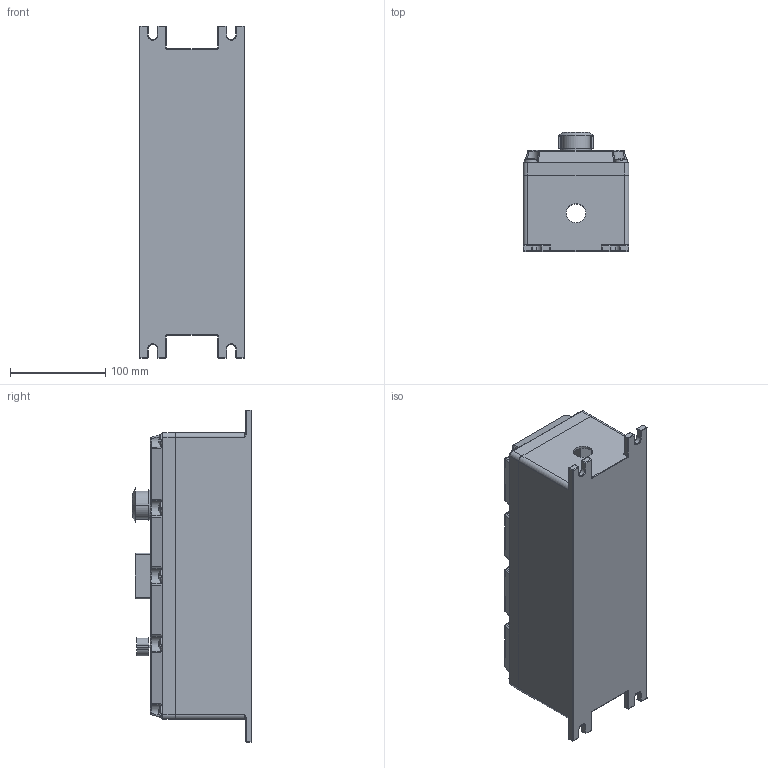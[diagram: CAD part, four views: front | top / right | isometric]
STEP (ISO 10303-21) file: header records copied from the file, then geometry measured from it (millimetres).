
FILE_DESCRIPTION (( 'STEP AP214' ), '1' );
FILE_NAME ('EPCS-PBS-2XPB-1XESTP-PTM.2K-M1.STEP', '2021-12-08T21:00:06', ( '' ), ( '' ), 'SwSTEP 2.0', 'SolidWorks 2020', '' );
FILE_SCHEMA (( 'AUTOMOTIVE_DESIGN' ));
Length unit declared in the file: inch
Products named in the file (7): Double Push Button; Dial; GCS-83; EPCS-PBS-2XPB-1XESTP-PTM.2K-M1; Mushroom Push Button; binding head screw_ai_SL-BHMS 0.25-20x0.5x0.5-N; GCS-83_No Hole
Assembly tree (15 placements, depth 3):
  EPCS-PBS-2XPB-1XESTP-PTM.2K-M1
    GCS-83
      GCS-83_No Hole
      binding head screw_ai_SL-BHMS 0.25-20x0.5x0.5-N  x10
    Mushroom Push Button
    Double Push Button
    Dial
Bounding box: 111.12 x 125.41 x 349.25 mm (x, y, z)
Volume: 835544.8 mm3; surface area: 330882 mm2
Topology: 17 solids, 17 shells, 642 faces, 1523 edges, 859 vertices
Faces by surface type: cylinder 222, plane 162, sphere 92, torus 72, bspline 72, cone 22
Entity records: 17093 total; most frequent: CARTESIAN_POINT 5399, DIRECTION 2456, ORIENTED_EDGE 2354, EDGE_CURVE 1177, AXIS2_PLACEMENT_3D 995, VERTEX_POINT 679, EDGE_LOOP 560, FACE_OUTER_BOUND 525
